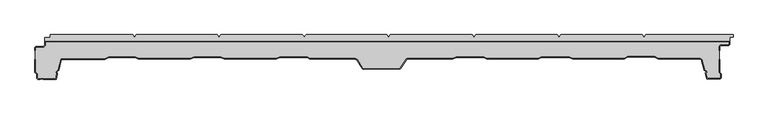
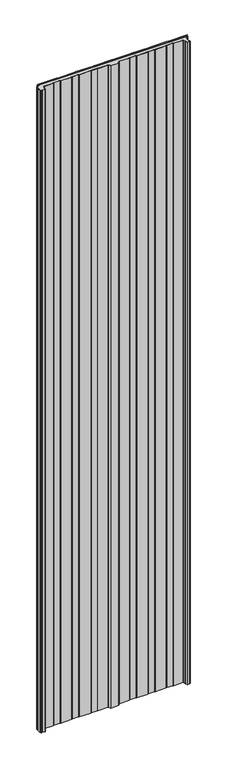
"""IFC4 building model written with IfcOpenShell, lengths in millimetres: plate geometry, Paneles-Sándwich-Madera_PAPUR-AC_Curtain-Panel : PAPUR AC 30/10."""

from ifc_helpers import new_model, si_unit, origin, origin_with_axes, place, context, project, spatial, polyline, outline, extrude, source, transform, mapped, element, save


def plate_7fcfe3b8(model_context):
    return source(origin(), model_context, "Body", "SweptSolid", [
        extrude(outline(polyline([(-404.8923076, 8.0070037), (-402.9037044, 10.0073737), (-272.8159298, 10.0073737), (-270.8198896, 8.0070037), (-270.8198896, 6.0196231), (-268.8151898, 6.0196231), (-268.8151898, 8.0070037), (-266.8234794, 10.0073737), (-136.0114048, 10.0073737), (-134.028354, 8.0070037), (-134.028354, 6.0196231), (-132.0236542, 6.0196231), (-132.0236542, 8.0070037), (-130.027614, 10.0073737), (-0.6790135, 10.0073737), (1.3083671, 8.0070037), (1.3083671, 6.0196231), (3.3044073, 6.0196231), (3.3044073, 8.0070037), (5.3047773, 10.0073737), (136.7230247, 10.0073737), (138.7147351, 8.0070037), (138.7147351, 6.0196231), (140.7107753, 6.0196231), (140.7107753, 8.0070037), (142.7111453, 10.0073737), (272.9386962, 10.0073737), (274.9390662, 8.0070037), (274.9390662, 6.0196231), (276.9351064, 6.0196231), (276.9351064, 8.0070037), (278.9311466, 10.0073737), (409.5094118, 10.0073737), (411.5097818, 8.0070037), (411.5097818, 6.0196231), (413.4971624, 6.0196231), (413.4971624, 8.0070037), (415.4932026, 10.0073737), (555.7269333, 10.0073737), (555.7269333, 6.4959017), (550.4015009, 6.4959017), (550.4015009, 0.0), (-549.601171, 0.0), (-549.601171, 5.5984381), (-541.266524, 5.5984381), (-541.266524, 10.0073737), (-408.8887178, 10.0073737), (-406.8926776, 8.0070037), (-406.8926776, 6.0196231), (-404.8923076, 6.0196231), (-404.8923076, 8.0070037)])), origin_with_axes(), (0.0, 0.0, 1.0), 5000.0),
        extrude(outline(polyline([(-565.6618356, -10.4348305), (-564.1420739, -9.1055803), (-552.1008857, -8.9930054), (-549.9316533, -7.001295), (-549.9922705, -1.1690474), (-548.9531173, 0.0), (548.9555868, 0.0), (549.99474, -0.6538006), (549.99474, -6.0184292), (548.4489996, -7.5641697), (535.77133, -7.5641697), (533.9181733, -9.3995927), (533.9181733, -15.1889566), (533.1181733, -15.1889566), (533.1181733, -9.0659666), (535.4422099, -6.7641697), (548.1176287, -6.7641697), (549.19474, -5.6870584), (549.19474, -0.8), (-548.5938644, -0.8), (-549.1891031, -1.4696435), (-549.1279914, -7.3494661), (-551.7861577, -9.7900979), (-563.8383716, -9.9027759), (-564.8585217, -10.795044), (-564.8185043, -15.1889566), (-565.6185375, -15.1889566), (-565.6618356, -10.4348305)])), origin_with_axes(), (0.0, 0.0, 1.0), 5000.0),
        extrude(outline(polyline([(160.2961713, -29.080732), (155.0700964, -26.8595419), (110.914743, -26.8595419), (105.4418692, -29.080732), (32.9522706, -29.080732), (31.4498282, -30.0159699), (22.1450768, -44.1874223), (21.0669553, -45.2871929), (-38.4029191, -45.7721311), (-40.2907141, -44.4602001), (-48.8593986, -30.2974073), (-51.5698567, -29.080732), (-124.2066687, -29.080732), (-128.6057508, -26.8595419), (-172.432039, -26.8595419), (-178.2426376, -29.080732), (-261.7689096, -29.080732), (-267.3283795, -26.8595419), (-309.6738743, -26.8595419), (-315.8568362, -29.080732), (-399.3138314, -29.080732), (-404.2931073, -26.8595419), (-447.2231259, -26.8595419), (-453.6788654, -29.5570106), (-522.9773976, -29.6955644), (-527.4977143, -47.4131272), (-528.6234636, -48.5994938), (-530.0999272, -49.3355607), (-530.4116732, -50.262139), (-529.4850948, -52.4227118), (-529.4850948, -53.6653659), (-531.6372836, -62.0045707), (-552.0433799, -62.0045707), (-554.8231149, -61.0779924), (-557.2997634, -62.0045707), (-560.7029903, -62.0045707), (-562.8635631, -60.4025428), (-562.9285102, -53.2756835), (-565.6476279, -50.6041937), (-565.6, -29.57), (-564.7999979, -29.57), (-564.8468678, -50.2694216), (-562.1315619, -52.9371664), (-562.0672248, -59.9970874), (-560.438754, -61.2045707), (-557.4445144, -61.2045707), (-554.8384953, -60.2295916), (-551.9135578, -61.2045707), (-532.2570317, -61.2045707), (-530.2850948, -53.5637976), (-530.2850948, -52.5870188), (-531.2673442, -50.2966335), (-530.7527365, -48.767105), (-529.1066634, -47.946482), (-528.2213945, -47.0135448), (-523.5992353, -28.896806), (-453.8400488, -28.7573313), (-447.3835418, -26.0595419), (-404.1227627, -26.0595419), (-399.1434867, -28.280732), (-315.9961744, -28.280732), (-309.8132126, -26.0595419), (-267.1744807, -26.0595419), (-261.6150108, -28.280732), (-178.390332, -28.280732), (-172.5797335, -26.0595419), (-128.4152363, -26.0595419), (-124.0161542, -28.280732), (-51.3985382, -28.280732), (-48.3041085, -29.6697651), (-39.6943674, -43.9004185), (-38.1551784, -44.9700843), (20.728235, -44.4899283), (21.5191698, -43.6831114), (30.8776723, -29.4297941), (32.7236193, -28.280732), (105.2857129, -28.280732), (110.7585866, -26.0595419), (155.2330509, -26.0595419), (160.4591258, -28.280732), (242.801635, -28.280732), (247.2274638, -26.0595419), (292.6117194, -26.0595419), (298.2231469, -28.280732), (380.6626325, -28.280732), (386.4515821, -25.3754327), (429.5764659, -25.3754327), (435.4444395, -28.2812706), (503.1429943, -28.4760679), (505.4861808, -29.5321519), (510.3641127, -47.2870941), (512.9960103, -48.5999754), (513.122536, -50.5751818), (511.934239, -52.1278347), (514.154453, -60.732622), (534.8688225, -60.732622), (536.1415957, -59.4787983), (536.1415957, -53.5331272), (533.1367108, -50.7549039), (533.1367108, -29.57), (533.9367108, -29.57), (533.9367108, -50.4050226), (536.9415957, -53.1832459), (536.9415957, -59.8136893), (535.1966842, -61.532622), (513.5346688, -61.532622), (511.06235, -51.9507631), (512.3050041, -50.3270861), (512.2270676, -49.1104109), (509.6873364, -47.8435053), (504.8144411, -30.1068958), (502.9699441, -29.2755732), (435.2561206, -29.080732), (429.3892345, -26.1754327), (386.6410678, -26.1754327), (380.8521183, -29.080732), (298.0705727, -29.080732), (292.4591451, -26.8595419), (247.4169495, -26.8595419), (242.9911208, -29.080732), (160.2961713, -29.080732)])), origin_with_axes(), (0.0, 0.0, 1.0), 5000.0),
        extrude(outline(polyline([(536.139617, -53.5285564), (536.139617, -59.4742276), (534.8668439, -60.7280512), (514.1524744, -60.7280512), (511.9322604, -52.1232639), (513.1205574, -50.5706111), (512.9940317, -48.5954047), (510.3621341, -47.2825234), (505.4842022, -29.5275812), (503.1410157, -28.4714971), (435.4424609, -28.2766998), (429.5744873, -25.370862), (386.4496035, -25.370862), (380.6606539, -28.2761613), (298.2211683, -28.2761613), (292.6097408, -26.0549712), (247.2254852, -26.0549712), (242.7996564, -28.2761613), (160.4571472, -28.2761613), (155.2310723, -26.0549712), (110.756608, -26.0549712), (105.2837343, -28.2761613), (32.7216407, -28.2761613), (30.8756937, -29.4252234), (21.5171912, -43.6785406), (20.7262564, -44.4853576), (-38.157157, -44.9655136), (-39.696346, -43.8958478), (-48.3060871, -29.6651944), (-51.4005168, -28.2761613), (-124.0181328, -28.2761613), (-128.4172149, -26.0549712), (-172.5817121, -26.0549712), (-178.3923106, -28.2761613), (-261.6169894, -28.2761613), (-267.1764593, -26.0549712), (-309.8151912, -26.0549712), (-315.998153, -28.2761613), (-399.1454653, -28.2761613), (-404.1247413, -26.0549712), (-447.3855204, -26.0549712), (-453.8420274, -28.7527605), (-523.6012139, -28.8922353), (-528.2233731, -47.0089741), (-529.108642, -47.9419113), (-530.7547151, -48.7625342), (-531.2693228, -50.2920628), (-530.2870734, -52.5824481), (-530.2870734, -53.5592269), (-532.2590104, -61.2), (-551.9155364, -61.2), (-554.8404739, -60.2250208), (-557.446493, -61.2), (-560.4407326, -61.2), (-562.0692034, -59.9925166), (-562.1335405, -52.9325956), (-564.8488464, -50.2648508), (-564.8019766, -30.0), (-564.8432618, -10.795044), (-563.8231116, -9.9027759), (-551.7708977, -9.7900979), (-549.1127314, -7.3494661), (-549.1738431, -1.4696435), (-548.5786045, -0.8), (549.21, -0.8), (549.21, -5.6870584), (548.1328887, -6.7641697), (535.4574698, -6.7641697), (533.1334333, -9.0659666), (533.1334333, -50.7491322), (536.139617, -53.5285564)])), origin_with_axes(), (0.0, 0.0, 1.0), 5000.0),
    ])


if __name__ == "__main__":
    model = new_model("IFC4")
    model_context = context("Model", 3, world=origin())
    ifc_project = project(units=[si_unit("LENGTHUNIT", "METRE", prefix="MILLI")], contexts=[model_context])
    site = spatial("IfcSite", under=ifc_project)
    building = spatial("IfcBuilding", under=site)
    placement = place(None, origin())
    plate_shape = plate_7fcfe3b8(model_context)
    element("IfcPlate", 1, ObjectType="Paneles-Sándwich-Madera_PAPUR-AC_Curtain-Panel : PAPUR AC 30/10", at=placement, inside=building, context=model_context, shape_type="MappedRepresentation", body=[
        mapped(plate_shape, transform((0.0, 0.0, 0.0), x_axis=(1.0, 0.0, 0.0), y_axis=(0.0, 1.0, 0.0), z_axis=(0.0, 0.0, 1.0))),
    ])
    save(model, "model.ifc")
